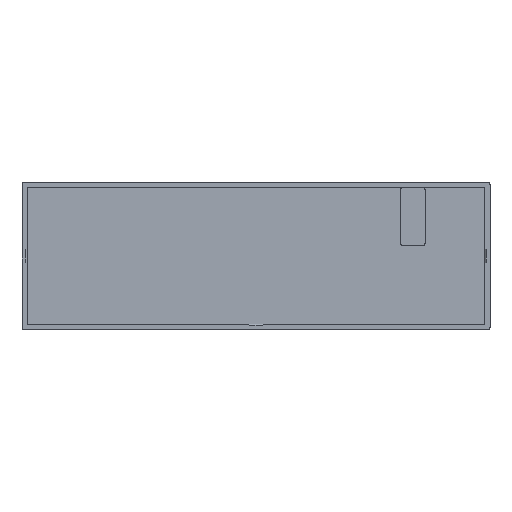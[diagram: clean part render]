
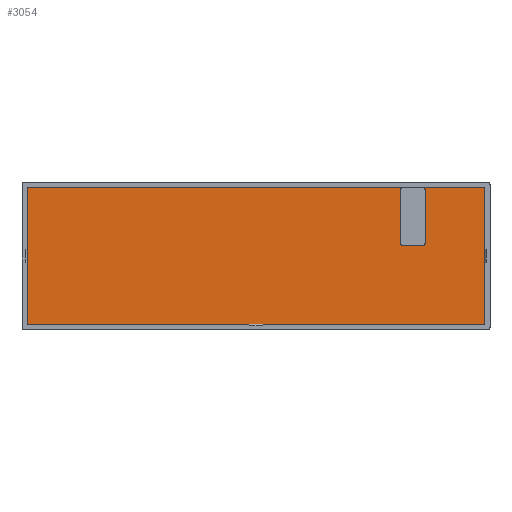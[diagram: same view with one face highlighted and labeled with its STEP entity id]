
A CAD part, top view. The second image highlights one B-rep face of the part: STEP entity #3054.
In plain terms, the highlighted planar face has unit normal (0, 0, 1).
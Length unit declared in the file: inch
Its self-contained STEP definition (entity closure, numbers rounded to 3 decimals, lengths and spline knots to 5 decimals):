
#139=LINE('',#4505,#458);
#140=LINE('',#4509,#459);
#141=LINE('',#4513,#460);
#142=LINE('',#4517,#461);
#143=LINE('',#4519,#462);
#144=LINE('',#4521,#463);
#145=LINE('',#4523,#464);
#146=LINE('',#4525,#465);
#458=VECTOR('',#3567,1.);
#459=VECTOR('',#3570,1.);
#460=VECTOR('',#3573,1.);
#461=VECTOR('',#3576,1.);
#462=VECTOR('',#3577,1.);
#463=VECTOR('',#3578,1.);
#464=VECTOR('',#3579,1.);
#465=VECTOR('',#3580,1.);
#777=ORIENTED_EDGE('',*,*,#1693,.F.);
#778=ORIENTED_EDGE('',*,*,#1694,.T.);
#779=ORIENTED_EDGE('',*,*,#1695,.F.);
#780=ORIENTED_EDGE('',*,*,#1696,.F.);
#781=ORIENTED_EDGE('',*,*,#1697,.F.);
#782=ORIENTED_EDGE('',*,*,#1698,.T.);
#783=ORIENTED_EDGE('',*,*,#1699,.F.);
#784=ORIENTED_EDGE('',*,*,#1700,.F.);
#785=ORIENTED_EDGE('',*,*,#1701,.F.);
#786=ORIENTED_EDGE('',*,*,#1702,.T.);
#787=ORIENTED_EDGE('',*,*,#1703,.F.);
#788=ORIENTED_EDGE('',*,*,#1704,.F.);
#1693=EDGE_CURVE('',#2151,#2152,#2445,.T.);
#1694=EDGE_CURVE('',#2151,#2153,#139,.T.);
#1695=EDGE_CURVE('',#2154,#2153,#2446,.T.);
#1696=EDGE_CURVE('',#2155,#2154,#140,.T.);
#1697=EDGE_CURVE('',#2156,#2155,#2447,.T.);
#1698=EDGE_CURVE('',#2156,#2157,#141,.T.);
#1699=EDGE_CURVE('',#2158,#2157,#2448,.T.);
#1700=EDGE_CURVE('',#2159,#2158,#142,.T.);
#1701=EDGE_CURVE('',#2160,#2159,#143,.T.);
#1702=EDGE_CURVE('',#2160,#2161,#144,.T.);
#1703=EDGE_CURVE('',#2162,#2161,#145,.T.);
#1704=EDGE_CURVE('',#2152,#2162,#146,.T.);
#2151=VERTEX_POINT('',#4503);
#2152=VERTEX_POINT('',#4504);
#2153=VERTEX_POINT('',#4506);
#2154=VERTEX_POINT('',#4508);
#2155=VERTEX_POINT('',#4510);
#2156=VERTEX_POINT('',#4512);
#2157=VERTEX_POINT('',#4514);
#2158=VERTEX_POINT('',#4516);
#2159=VERTEX_POINT('',#4518);
#2160=VERTEX_POINT('',#4520);
#2161=VERTEX_POINT('',#4522);
#2162=VERTEX_POINT('',#4524);
#2445=CIRCLE('',#3253,0.0015);
#2446=CIRCLE('',#3254,0.0015);
#2447=CIRCLE('',#3255,0.0015);
#2448=CIRCLE('',#3256,0.0015);
#2535=EDGE_LOOP('',(#777,#778,#779,#780,#781,#782,#783,#784,#785,#786,#787,#788));
#2741=FACE_BOUND('',#2535,.T.);
#2947=PLANE('',#3252);
#3054=ADVANCED_FACE('',(#2741),#2947,.F.);
#3252=AXIS2_PLACEMENT_3D('',#4501,#3563,#3564);
#3253=AXIS2_PLACEMENT_3D('',#4502,#3565,#3566);
#3254=AXIS2_PLACEMENT_3D('',#4507,#3568,#3569);
#3255=AXIS2_PLACEMENT_3D('',#4511,#3571,#3572);
#3256=AXIS2_PLACEMENT_3D('',#4515,#3574,#3575);
#3563=DIRECTION('',(0.,0.,-1.));
#3564=DIRECTION('',(1.,0.,0.));
#3565=DIRECTION('',(0.,0.,1.));
#3566=DIRECTION('',(1.,0.,0.));
#3567=DIRECTION('',(0.,-1.,0.));
#3568=DIRECTION('',(0.,0.,1.));
#3569=DIRECTION('',(0.,-1.,0.));
#3570=DIRECTION('',(1.,0.,0.));
#3571=DIRECTION('',(0.,0.,1.));
#3572=DIRECTION('',(-1.,0.,0.));
#3573=DIRECTION('',(0.,1.,0.));
#3574=DIRECTION('',(0.,0.,1.));
#3575=DIRECTION('',(0.,1.,0.));
#3576=DIRECTION('',(1.,0.,0.));
#3577=DIRECTION('',(0.,1.,0.));
#3578=DIRECTION('',(1.,0.,0.));
#3579=DIRECTION('',(0.,-1.,0.));
#3580=DIRECTION('',(1.,0.,0.));
#4501=CARTESIAN_POINT('',(0.2124,-0.06203,-0.00369));
#4502=CARTESIAN_POINT('',(0.36936,0.0005,-0.00369));
#4503=CARTESIAN_POINT('',(0.37086,0.0005,-0.00369));
#4504=CARTESIAN_POINT('',(0.36936,0.002,-0.00369));
#4505=CARTESIAN_POINT('',(0.37086,-0.0255,-0.00369));
#4506=CARTESIAN_POINT('',(0.37086,-0.0505,-0.00369));
#4507=CARTESIAN_POINT('',(0.36936,-0.0505,-0.00369));
#4508=CARTESIAN_POINT('',(0.36936,-0.052,-0.00369));
#4509=CARTESIAN_POINT('',(0.35284,-0.052,-0.00369));
#4510=CARTESIAN_POINT('',(0.34936,-0.052,-0.00369));
#4511=CARTESIAN_POINT('',(0.34936,-0.0505,-0.00369));
#4512=CARTESIAN_POINT('',(0.34786,-0.0505,-0.00369));
#4513=CARTESIAN_POINT('',(0.34786,-0.0255,-0.00369));
#4514=CARTESIAN_POINT('',(0.34786,0.0005,-0.00369));
#4515=CARTESIAN_POINT('',(0.34936,0.0005,-0.00369));
#4516=CARTESIAN_POINT('',(0.34936,0.002,-0.00369));
#4517=CARTESIAN_POINT('',(0.2124,0.002,-0.00369));
#4518=CARTESIAN_POINT('',(-0.002,0.002,-0.00369));
#4519=CARTESIAN_POINT('',(-0.002,-0.06203,-0.00369));
#4520=CARTESIAN_POINT('',(-0.002,-0.12605,-0.00369));
#4521=CARTESIAN_POINT('',(0.17201,-0.12605,-0.00369));
#4522=CARTESIAN_POINT('',(0.42679,-0.12605,-0.00369));
#4523=CARTESIAN_POINT('',(0.42679,-0.06203,-0.00369));
#4524=CARTESIAN_POINT('',(0.42679,0.002,-0.00369));
#4525=CARTESIAN_POINT('',(0.2124,0.002,-0.00369));
